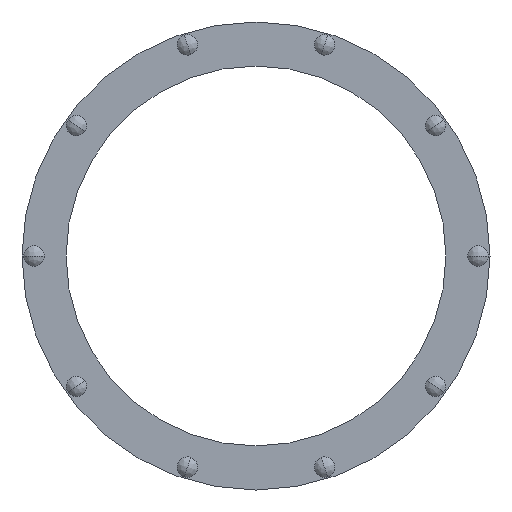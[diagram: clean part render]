
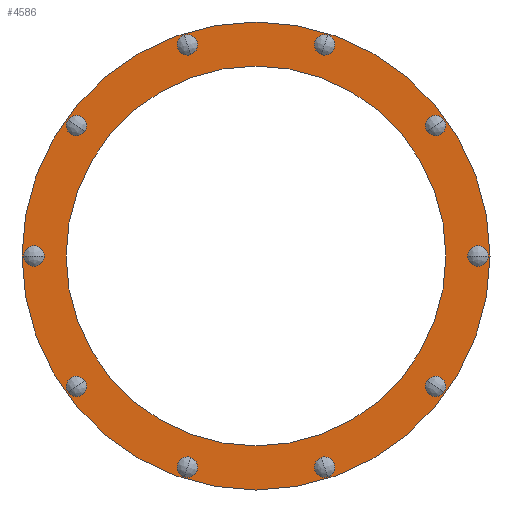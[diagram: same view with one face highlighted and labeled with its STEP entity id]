
A CAD part, front view. The second image highlights one B-rep face of the part: STEP entity #4586.
In plain terms, the highlighted planar face has unit normal (0, -1, 0).
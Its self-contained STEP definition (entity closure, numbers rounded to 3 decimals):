
#1613=CARTESIAN_POINT('',(0.,-151.,0.));
#1614=DIRECTION('',(0.,-1.,0.));
#1615=DIRECTION('',(-1.,0.,0.));
#1616=AXIS2_PLACEMENT_3D('',#1613,#1614,#1615);
#1622=CARTESIAN_POINT('',(0.,-151.,0.));
#1623=DIRECTION('',(0.,1.,0.));
#1624=DIRECTION('',(-1.,0.,0.));
#1625=AXIS2_PLACEMENT_3D('',#1622,#1623,#1624);
#1631=CARTESIAN_POINT('',(0.,-151.,0.));
#1632=DIRECTION('',(0.,-1.,0.));
#1633=DIRECTION('',(-1.,0.,0.));
#1634=AXIS2_PLACEMENT_3D('',#1631,#1632,#1633);
#1636=CARTESIAN_POINT('',(0.,-151.,0.));
#1637=DIRECTION('',(0.,1.,0.));
#1638=DIRECTION('',(-1.,0.,0.));
#1639=AXIS2_PLACEMENT_3D('',#1636,#1637,#1638);
#1641=CARTESIAN_POINT('',(-277.,-151.,0.));
#1642=DIRECTION('',(0.,1.,0.));
#1643=DIRECTION('',(-1.,0.,0.));
#1644=AXIS2_PLACEMENT_3D('',#1641,#1642,#1643);
#1646=CARTESIAN_POINT('',(-277.,-151.,0.));
#1647=DIRECTION('',(0.,1.,0.));
#1648=DIRECTION('',(1.,0.,0.));
#1649=AXIS2_PLACEMENT_3D('',#1646,#1647,#1648);
#1651=CARTESIAN_POINT('',(-224.098,-151.,-162.817));
#1652=DIRECTION('',(0.,1.,0.));
#1653=DIRECTION('',(-0.809,0.,-0.588));
#1654=AXIS2_PLACEMENT_3D('',#1651,#1652,#1653);
#1656=CARTESIAN_POINT('',(-224.098,-151.,-162.817));
#1657=DIRECTION('',(0.,1.,0.));
#1658=DIRECTION('',(0.809,0.,0.588));
#1659=AXIS2_PLACEMENT_3D('',#1656,#1657,#1658);
#1661=CARTESIAN_POINT('',(-85.598,-151.,-263.443));
#1662=DIRECTION('',(0.,1.,0.));
#1663=DIRECTION('',(-0.309,0.,-0.951));
#1664=AXIS2_PLACEMENT_3D('',#1661,#1662,#1663);
#1666=CARTESIAN_POINT('',(-85.598,-151.,-263.443));
#1667=DIRECTION('',(0.,1.,0.));
#1668=DIRECTION('',(0.309,0.,0.951));
#1669=AXIS2_PLACEMENT_3D('',#1666,#1667,#1668);
#1671=CARTESIAN_POINT('',(85.598,-151.,-263.443));
#1672=DIRECTION('',(0.,1.,0.));
#1673=DIRECTION('',(0.309,0.,-0.951));
#1674=AXIS2_PLACEMENT_3D('',#1671,#1672,#1673);
#1676=CARTESIAN_POINT('',(85.598,-151.,-263.443));
#1677=DIRECTION('',(0.,1.,0.));
#1678=DIRECTION('',(-0.309,0.,0.951));
#1679=AXIS2_PLACEMENT_3D('',#1676,#1677,#1678);
#1681=CARTESIAN_POINT('',(224.098,-151.,-162.817));
#1682=DIRECTION('',(0.,1.,0.));
#1683=DIRECTION('',(0.809,0.,-0.588));
#1684=AXIS2_PLACEMENT_3D('',#1681,#1682,#1683);
#1686=CARTESIAN_POINT('',(224.098,-151.,-162.817));
#1687=DIRECTION('',(0.,1.,0.));
#1688=DIRECTION('',(-0.809,0.,0.588));
#1689=AXIS2_PLACEMENT_3D('',#1686,#1687,#1688);
#1691=CARTESIAN_POINT('',(277.,-151.,0.));
#1692=DIRECTION('',(0.,1.,0.));
#1693=DIRECTION('',(1.,0.,0.));
#1694=AXIS2_PLACEMENT_3D('',#1691,#1692,#1693);
#1696=CARTESIAN_POINT('',(277.,-151.,0.));
#1697=DIRECTION('',(0.,1.,0.));
#1698=DIRECTION('',(-1.,0.,0.));
#1699=AXIS2_PLACEMENT_3D('',#1696,#1697,#1698);
#1701=CARTESIAN_POINT('',(224.098,-151.,162.817));
#1702=DIRECTION('',(0.,1.,0.));
#1703=DIRECTION('',(0.809,0.,0.588));
#1704=AXIS2_PLACEMENT_3D('',#1701,#1702,#1703);
#1706=CARTESIAN_POINT('',(224.098,-151.,162.817));
#1707=DIRECTION('',(0.,1.,0.));
#1708=DIRECTION('',(-0.809,0.,-0.588));
#1709=AXIS2_PLACEMENT_3D('',#1706,#1707,#1708);
#1711=CARTESIAN_POINT('',(85.598,-151.,263.443));
#1712=DIRECTION('',(0.,1.,0.));
#1713=DIRECTION('',(0.309,0.,0.951));
#1714=AXIS2_PLACEMENT_3D('',#1711,#1712,#1713);
#1716=CARTESIAN_POINT('',(85.598,-151.,263.443));
#1717=DIRECTION('',(0.,1.,0.));
#1718=DIRECTION('',(-0.309,0.,-0.951));
#1719=AXIS2_PLACEMENT_3D('',#1716,#1717,#1718);
#1721=CARTESIAN_POINT('',(-85.598,-151.,263.443));
#1722=DIRECTION('',(0.,1.,0.));
#1723=DIRECTION('',(-0.309,0.,0.951));
#1724=AXIS2_PLACEMENT_3D('',#1721,#1722,#1723);
#1726=CARTESIAN_POINT('',(-85.598,-151.,263.443));
#1727=DIRECTION('',(0.,1.,0.));
#1728=DIRECTION('',(0.309,0.,-0.951));
#1729=AXIS2_PLACEMENT_3D('',#1726,#1727,#1728);
#1731=CARTESIAN_POINT('',(-224.098,-151.,162.817));
#1732=DIRECTION('',(0.,1.,0.));
#1733=DIRECTION('',(-0.809,0.,0.588));
#1734=AXIS2_PLACEMENT_3D('',#1731,#1732,#1733);
#1736=CARTESIAN_POINT('',(-224.098,-151.,162.817));
#1737=DIRECTION('',(0.,1.,0.));
#1738=DIRECTION('',(0.809,0.,-0.588));
#1739=AXIS2_PLACEMENT_3D('',#1736,#1737,#1738);
#3239=CARTESIAN_POINT('',(-292.,-151.,0.));
#3241=VERTEX_POINT('',#3239);
#3242=CARTESIAN_POINT('',(-237.,-151.,0.));
#3244=VERTEX_POINT('',#3242);
#3257=CARTESIAN_POINT('',(292.,-151.,0.));
#3259=VERTEX_POINT('',#3257);
#3260=CARTESIAN_POINT('',(237.,-151.,0.));
#3262=VERTEX_POINT('',#3260);
#3330=CARTESIAN_POINT('',(-289.75,-151.,0.));
#3331=VERTEX_POINT('',#3330);
#3332=CARTESIAN_POINT('',(-264.25,-151.,0.));
#3333=VERTEX_POINT('',#3332);
#3372=CARTESIAN_POINT('',(-234.413,-151.,-170.311));
#3373=VERTEX_POINT('',#3372);
#3374=CARTESIAN_POINT('',(-213.783,-151.,-155.322));
#3375=VERTEX_POINT('',#3374);
#3414=CARTESIAN_POINT('',(-89.538,-151.,-275.569));
#3415=VERTEX_POINT('',#3414);
#3416=CARTESIAN_POINT('',(-81.658,-151.,-251.317));
#3417=VERTEX_POINT('',#3416);
#3456=CARTESIAN_POINT('',(89.538,-151.,-275.569));
#3457=VERTEX_POINT('',#3456);
#3458=CARTESIAN_POINT('',(81.658,-151.,-251.317));
#3459=VERTEX_POINT('',#3458);
#3498=CARTESIAN_POINT('',(234.413,-151.,-170.311));
#3499=VERTEX_POINT('',#3498);
#3500=CARTESIAN_POINT('',(213.783,-151.,-155.322));
#3501=VERTEX_POINT('',#3500);
#3540=CARTESIAN_POINT('',(289.75,-151.,0.));
#3541=VERTEX_POINT('',#3540);
#3542=CARTESIAN_POINT('',(264.25,-151.,0.));
#3543=VERTEX_POINT('',#3542);
#3602=CARTESIAN_POINT('',(234.413,-151.,170.311));
#3603=VERTEX_POINT('',#3602);
#3604=CARTESIAN_POINT('',(213.783,-151.,155.322));
#3605=VERTEX_POINT('',#3604);
#3644=CARTESIAN_POINT('',(89.538,-151.,275.569));
#3645=VERTEX_POINT('',#3644);
#3646=CARTESIAN_POINT('',(81.658,-151.,251.317));
#3647=VERTEX_POINT('',#3646);
#3686=CARTESIAN_POINT('',(-89.538,-151.,275.569));
#3687=VERTEX_POINT('',#3686);
#3688=CARTESIAN_POINT('',(-81.658,-151.,251.317));
#3689=VERTEX_POINT('',#3688);
#3728=CARTESIAN_POINT('',(-234.413,-151.,170.311));
#3729=VERTEX_POINT('',#3728);
#3730=CARTESIAN_POINT('',(-213.783,-151.,155.322));
#3731=VERTEX_POINT('',#3730);
#4511=CARTESIAN_POINT('',(0.,-151.,0.));
#4512=DIRECTION('',(0.,-1.,0.));
#4513=DIRECTION('',(-1.,0.,0.));
#4514=AXIS2_PLACEMENT_3D('',#4511,#4512,#4513);
#4515=PLANE('',#4514);
#4517=ORIENTED_EDGE('',*,*,#4516,.F.);
#4519=ORIENTED_EDGE('',*,*,#4518,.T.);
#4520=EDGE_LOOP('',(#4517,#4519));
#4521=FACE_OUTER_BOUND('',#4520,.F.);
#4522=ORIENTED_EDGE('',*,*,#4504,.F.);
#4523=ORIENTED_EDGE('',*,*,#4493,.T.);
#4524=EDGE_LOOP('',(#4522,#4523));
#4525=FACE_BOUND('',#4524,.F.);
#4527=ORIENTED_EDGE('',*,*,#4526,.F.);
#4529=ORIENTED_EDGE('',*,*,#4528,.F.);
#4530=EDGE_LOOP('',(#4527,#4529));
#4531=FACE_BOUND('',#4530,.F.);
#4533=ORIENTED_EDGE('',*,*,#4532,.F.);
#4535=ORIENTED_EDGE('',*,*,#4534,.F.);
#4536=EDGE_LOOP('',(#4533,#4535));
#4537=FACE_BOUND('',#4536,.F.);
#4539=ORIENTED_EDGE('',*,*,#4538,.F.);
#4541=ORIENTED_EDGE('',*,*,#4540,.F.);
#4542=EDGE_LOOP('',(#4539,#4541));
#4543=FACE_BOUND('',#4542,.F.);
#4545=ORIENTED_EDGE('',*,*,#4544,.F.);
#4547=ORIENTED_EDGE('',*,*,#4546,.F.);
#4548=EDGE_LOOP('',(#4545,#4547));
#4549=FACE_BOUND('',#4548,.F.);
#4551=ORIENTED_EDGE('',*,*,#4550,.F.);
#4553=ORIENTED_EDGE('',*,*,#4552,.F.);
#4554=EDGE_LOOP('',(#4551,#4553));
#4555=FACE_BOUND('',#4554,.F.);
#4557=ORIENTED_EDGE('',*,*,#4556,.F.);
#4559=ORIENTED_EDGE('',*,*,#4558,.F.);
#4560=EDGE_LOOP('',(#4557,#4559));
#4561=FACE_BOUND('',#4560,.F.);
#4563=ORIENTED_EDGE('',*,*,#4562,.F.);
#4565=ORIENTED_EDGE('',*,*,#4564,.F.);
#4566=EDGE_LOOP('',(#4563,#4565));
#4567=FACE_BOUND('',#4566,.F.);
#4569=ORIENTED_EDGE('',*,*,#4568,.F.);
#4571=ORIENTED_EDGE('',*,*,#4570,.F.);
#4572=EDGE_LOOP('',(#4569,#4571));
#4573=FACE_BOUND('',#4572,.F.);
#4575=ORIENTED_EDGE('',*,*,#4574,.F.);
#4577=ORIENTED_EDGE('',*,*,#4576,.F.);
#4578=EDGE_LOOP('',(#4575,#4577));
#4579=FACE_BOUND('',#4578,.F.);
#4581=ORIENTED_EDGE('',*,*,#4580,.F.);
#4583=ORIENTED_EDGE('',*,*,#4582,.F.);
#4584=EDGE_LOOP('',(#4581,#4583));
#4585=FACE_BOUND('',#4584,.F.);
#4586=ADVANCED_FACE('',(#4521,#4525,#4531,#4537,#4543,#4549,#4555,#4561,#4567,
#4573,#4579,#4585),#4515,.T.);
#1617=CIRCLE('',#1616,237.);
#1626=CIRCLE('',#1625,237.);
#1635=CIRCLE('',#1634,292.);
#1640=CIRCLE('',#1639,292.);
#1645=CIRCLE('',#1644,12.75);
#1650=CIRCLE('',#1649,12.75);
#1655=CIRCLE('',#1654,12.75);
#1660=CIRCLE('',#1659,12.75);
#1665=CIRCLE('',#1664,12.75);
#1670=CIRCLE('',#1669,12.75);
#1675=CIRCLE('',#1674,12.75);
#1680=CIRCLE('',#1679,12.75);
#1685=CIRCLE('',#1684,12.75);
#1690=CIRCLE('',#1689,12.75);
#1695=CIRCLE('',#1694,12.75);
#1700=CIRCLE('',#1699,12.75);
#1705=CIRCLE('',#1704,12.75);
#1710=CIRCLE('',#1709,12.75);
#1715=CIRCLE('',#1714,12.75);
#1720=CIRCLE('',#1719,12.75);
#1725=CIRCLE('',#1724,12.75);
#1730=CIRCLE('',#1729,12.75);
#1735=CIRCLE('',#1734,12.75);
#1740=CIRCLE('',#1739,12.75);
#4493=EDGE_CURVE('',#3244,#3262,#1617,.T.);
#4504=EDGE_CURVE('',#3244,#3262,#1626,.T.);
#4516=EDGE_CURVE('',#3241,#3259,#1635,.T.);
#4518=EDGE_CURVE('',#3241,#3259,#1640,.T.);
#4526=EDGE_CURVE('',#3331,#3333,#1645,.T.);
#4528=EDGE_CURVE('',#3333,#3331,#1650,.T.);
#4532=EDGE_CURVE('',#3373,#3375,#1655,.T.);
#4534=EDGE_CURVE('',#3375,#3373,#1660,.T.);
#4538=EDGE_CURVE('',#3415,#3417,#1665,.T.);
#4540=EDGE_CURVE('',#3417,#3415,#1670,.T.);
#4544=EDGE_CURVE('',#3457,#3459,#1675,.T.);
#4546=EDGE_CURVE('',#3459,#3457,#1680,.T.);
#4550=EDGE_CURVE('',#3499,#3501,#1685,.T.);
#4552=EDGE_CURVE('',#3501,#3499,#1690,.T.);
#4556=EDGE_CURVE('',#3541,#3543,#1695,.T.);
#4558=EDGE_CURVE('',#3543,#3541,#1700,.T.);
#4562=EDGE_CURVE('',#3603,#3605,#1705,.T.);
#4564=EDGE_CURVE('',#3605,#3603,#1710,.T.);
#4568=EDGE_CURVE('',#3645,#3647,#1715,.T.);
#4570=EDGE_CURVE('',#3647,#3645,#1720,.T.);
#4574=EDGE_CURVE('',#3687,#3689,#1725,.T.);
#4576=EDGE_CURVE('',#3689,#3687,#1730,.T.);
#4580=EDGE_CURVE('',#3729,#3731,#1735,.T.);
#4582=EDGE_CURVE('',#3731,#3729,#1740,.T.);
